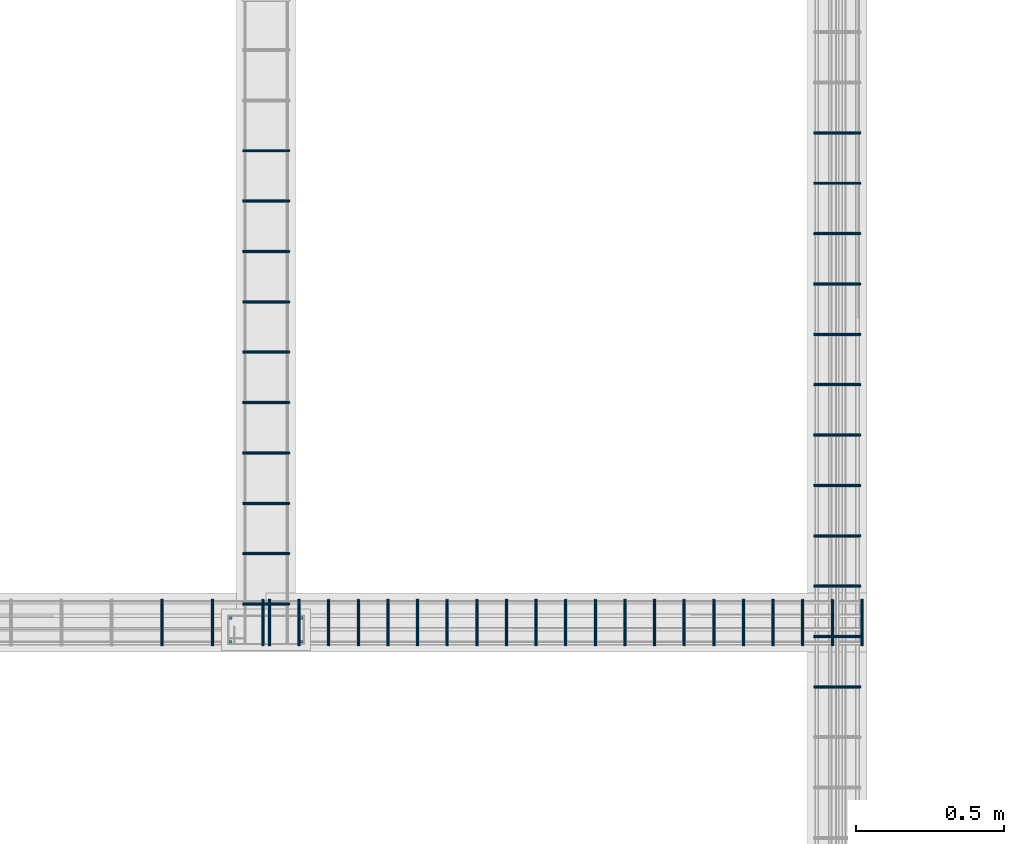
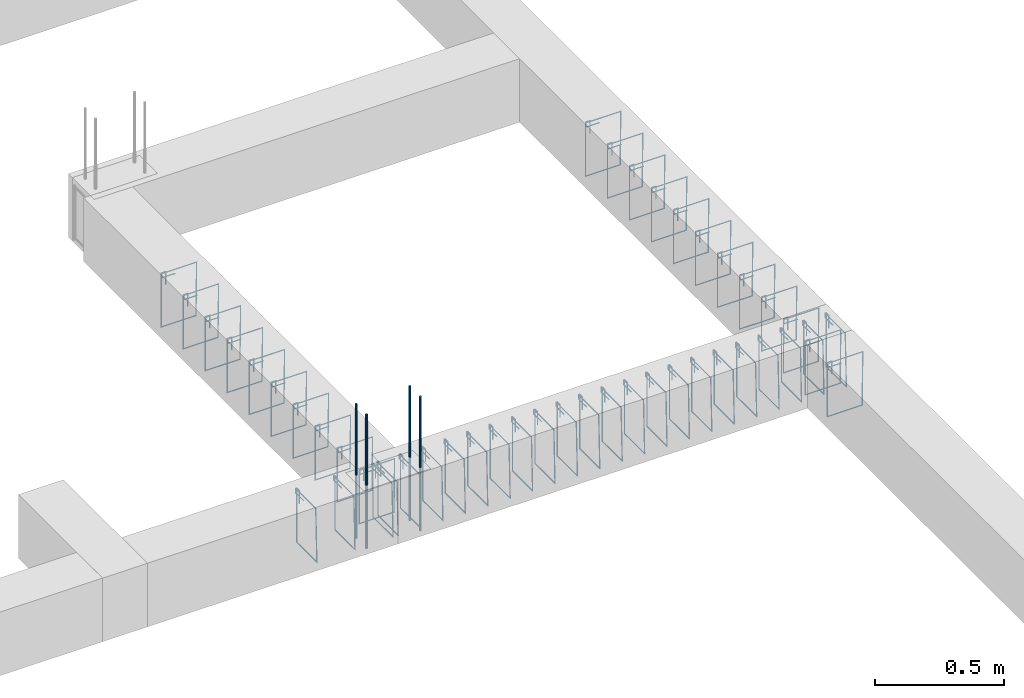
# One storey, part 51 of 150: 50 reinforcing bars.
"""IFC4 building model written with IfcOpenShell, lengths in centimetres."""

from ifc_helpers import new_model, entity, si_unit, derived_unit, frame, origin_with_axes, place, context, project, spatial, source, transform, mapped, element, save


model = new_model("IFC4")

# Units and contexts
model_context = context("Model", 3, precision=1e-05, world=origin_with_axes(), identifier="Body")
ifc_project = project(units=[si_unit("LENGTHUNIT", "METRE", prefix="CENTI"), si_unit("VOLUMEUNIT", "CUBIC_METRE"), si_unit("AREAUNIT", "SQUARE_METRE"), si_unit("POWERUNIT", "WATT"), si_unit("LUMINOUSFLUXUNIT", "LUMEN"), si_unit("ELECTRICCURRENTUNIT", "AMPERE"), si_unit("PRESSUREUNIT", "PASCAL", prefix="KILO"), si_unit("MASSUNIT", "GRAM", prefix="KILO"), si_unit("PLANEANGLEUNIT", "RADIAN"), derived_unit("VOLUMETRICFLOWRATEUNIT", [(si_unit("LENGTHUNIT", "METRE"), 3), (si_unit("TIMEUNIT", "SECOND"), -1)])], contexts=[model_context])

# Site, building, storey
site_placement = place(None, frame((-4000.0, 0.0, 0.0), z_axis=(0.0, 0.0, 1.0), x_axis=(1.0, 0.0, 0.0)))
site = spatial("IfcSite", under=ifc_project, at=site_placement, Name="PADRÃO")
building_placement = place(site_placement, frame((0.0, 0.0, -14.0)))
building = spatial("IfcBuilding", under=site, at=building_placement, Name="CRECHE PRÉ-ESCOLA TIPO 2")
placement = place(building_placement, origin_with_axes())
storey_placement = place(placement, frame((0.0, 0.0, 30.0), z_axis=(0.0, 0.0, 1.0), x_axis=(1.0, 0.0, 0.0)))
storey = spatial("IfcBuildingStorey", under=building, at=storey_placement, Name="VIGA BALDRAME", CompositionType="ELEMENT", Elevation=16.0)

# Reinforcing bars
shared_shape_1 = source(origin_with_axes(), model_context, "Body", "AdvancedSweptSolid", [
    entity("IfcSweptDiskSolid", entity("IfcCompositeCurve", [entity("IfcCompositeCurveSegment", "CONTINUOUS", True, entity("IfcPolyline", [entity("IfcCartesianPoint", [2.0, -6.0, 0.0]), entity("IfcCartesianPoint", [2.0, 0.0, 0.0])])), entity("IfcCompositeCurveSegment", "CONTINUOUS", True, entity("IfcPolyline", [entity("IfcCartesianPoint", [2.0, 0.0, 0.0]), entity("IfcCartesianPoint", [0.0, 0.0, 0.0])])), entity("IfcCompositeCurveSegment", "CONTINUOUS", True, entity("IfcPolyline", [entity("IfcCartesianPoint", [0.0, 0.0, 0.0]), entity("IfcCartesianPoint", [0.0, -25.5, 0.0])])), entity("IfcCompositeCurveSegment", "CONTINUOUS", True, entity("IfcPolyline", [entity("IfcCartesianPoint", [0.0, -25.5, 0.0]), entity("IfcCartesianPoint", [15.5, -25.5, 0.0])])), entity("IfcCompositeCurveSegment", "CONTINUOUS", True, entity("IfcPolyline", [entity("IfcCartesianPoint", [15.5, -25.5, 0.0]), entity("IfcCartesianPoint", [15.5, 0.0, 0.5])])), entity("IfcCompositeCurveSegment", "CONTINUOUS", True, entity("IfcPolyline", [entity("IfcCartesianPoint", [15.5, 0.0, 0.5]), entity("IfcCartesianPoint", [0.0, 0.0, 0.5])])), entity("IfcCompositeCurveSegment", "CONTINUOUS", True, entity("IfcPolyline", [entity("IfcCartesianPoint", [0.0, 0.0, 0.5]), entity("IfcCartesianPoint", [0.0, -2.0, 0.5])])), entity("IfcCompositeCurveSegment", "CONTINUOUS", True, entity("IfcPolyline", [entity("IfcCartesianPoint", [0.0, -2.0, 0.5]), entity("IfcCartesianPoint", [6.0, -2.0, 0.5])]))], False), 0.25),
])
for number, where, z_axis, x_axis, name in (
    (1, (3128.25, 1195.55, -2.25), (0.0, -1.0, 0.0), (1.0, 0.0, 0.0), "V216 - Estribo"),
    (2, (3128.25, 1178.55, -2.25), (0.0, -1.0, 0.0), (1.0, 0.0, 0.0), "V216 - Estribo"),
    (3, (3128.25, 1161.55, -2.25), (0.0, -1.0, 0.0), (1.0, 0.0, 0.0), "V216 - Estribo"),
    (4, (3128.25, 1144.55, -2.25), (0.0, -1.0, 0.0), (1.0, 0.0, 0.0), "V216 - Estribo"),
    (5, (3128.25, 1127.55, -2.25), (0.0, -1.0, 0.0), (1.0, 0.0, 0.0), "V216 - Estribo"),
    (6, (3128.25, 1110.55, -2.25), (0.0, -1.0, 0.0), (1.0, 0.0, 0.0), "V216 - Estribo"),
    (7, (3128.25, 1093.55, -2.25), (0.0, -1.0, 0.0), (1.0, 0.0, 0.0), "V216 - Estribo"),
    (8, (3128.25, 1076.55, -2.25), (0.0, -1.0, 0.0), (1.0, 0.0, 0.0), "V216 - Estribo"),
    (9, (3128.25, 1059.55, -2.25), (0.0, -1.0, 0.0), (1.0, 0.0, 0.0), "V216 - Estribo"),
    (10, (3128.25, 1042.55, -2.25), (0.0, -1.0, 0.0), (1.0, 0.0, 0.0), "V216 - Estribo"),
    (11, (3128.25, 1025.55, -2.25), (0.0, -1.0, 0.0), (1.0, 0.0, 0.0), "V216 - Estribo"),
    (12, (3128.25, 1008.55, -2.25), (0.0, -1.0, 0.0), (1.0, 0.0, 0.0), "V216 - Estribo"),
):
    element("IfcReinforcingBar", number, at=place(storey_placement, frame(where, z_axis=z_axis, x_axis=x_axis)), inside=storey, Name=name, BarLength=0.0, CrossSectionArea=1.9634954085e-05, NominalDiameter=0.5, PredefinedType="MAIN", context=model_context, shape_type="MappedRepresentation", body=[
        mapped(shared_shape_1, transform((0.0, 0.0, 0.0), scale=1.0)),
    ])
shared_shape_2 = source(origin_with_axes(), model_context, "Body", "AdvancedSweptSolid", [
    entity("IfcSweptDiskSolid", entity("IfcCompositeCurve", [entity("IfcCompositeCurveSegment", "CONTINUOUS", True, entity("IfcPolyline", [entity("IfcCartesianPoint", [2.0, -6.0, 0.0]), entity("IfcCartesianPoint", [2.0, 0.0, 0.0])])), entity("IfcCompositeCurveSegment", "CONTINUOUS", True, entity("IfcPolyline", [entity("IfcCartesianPoint", [2.0, 0.0, 0.0]), entity("IfcCartesianPoint", [0.0, 0.0, 0.0])])), entity("IfcCompositeCurveSegment", "CONTINUOUS", True, entity("IfcPolyline", [entity("IfcCartesianPoint", [0.0, 0.0, 0.0]), entity("IfcCartesianPoint", [0.0, -25.5, 0.0])])), entity("IfcCompositeCurveSegment", "CONTINUOUS", True, entity("IfcPolyline", [entity("IfcCartesianPoint", [0.0, -25.5, 0.0]), entity("IfcCartesianPoint", [15.5, -25.5, 0.0])])), entity("IfcCompositeCurveSegment", "CONTINUOUS", True, entity("IfcPolyline", [entity("IfcCartesianPoint", [15.5, -25.5, 0.0]), entity("IfcCartesianPoint", [15.5, 0.0, 0.5])])), entity("IfcCompositeCurveSegment", "CONTINUOUS", True, entity("IfcPolyline", [entity("IfcCartesianPoint", [15.5, 0.0, 0.5]), entity("IfcCartesianPoint", [0.0, 0.0, 0.5])])), entity("IfcCompositeCurveSegment", "CONTINUOUS", True, entity("IfcPolyline", [entity("IfcCartesianPoint", [0.0, 0.0, 0.5]), entity("IfcCartesianPoint", [0.0, -2.0, 0.5])])), entity("IfcCompositeCurveSegment", "CONTINUOUS", True, entity("IfcPolyline", [entity("IfcCartesianPoint", [0.0, -2.0, 0.5]), entity("IfcCartesianPoint", [6.0, -2.0, 0.5])]))], False), 0.25),
])
for number, where, z_axis, x_axis, name in (
    (13, (2935.49, 1036.52, -2.25), (0.0, -1.0, 0.0), (1.0, 0.0, 0.0), "V210 - Estribo"),
    (14, (2935.49, 1189.52, -2.25), (0.0, -1.0, 0.0), (1.0, 0.0, 0.0), "V210 - Estribo"),
    (15, (2935.49, 1172.52, -2.25), (0.0, -1.0, 0.0), (1.0, 0.0, 0.0), "V210 - Estribo"),
    (16, (2935.49, 1155.52, -2.25), (0.0, -1.0, 0.0), (1.0, 0.0, 0.0), "V210 - Estribo"),
    (17, (2935.49, 1138.52, -2.25), (0.0, -1.0, 0.0), (1.0, 0.0, 0.0), "V210 - Estribo"),
    (18, (2935.49, 1104.52, -2.25), (0.0, -1.0, 0.0), (1.0, 0.0, 0.0), "V210 - Estribo"),
    (19, (2935.49, 1087.52, -2.25), (0.0, -1.0, 0.0), (1.0, 0.0, 0.0), "V210 - Estribo"),
    (20, (2935.49, 1070.52, -2.25), (0.0, -1.0, 0.0), (1.0, 0.0, 0.0), "V210 - Estribo"),
    (21, (2935.49, 1121.52, -2.25), (0.0, -1.0, 0.0), (1.0, 0.0, 0.0), "V210 - Estribo"),
    (22, (2935.49, 1053.52, -2.25), (0.0, -1.0, 0.0), (1.0, 0.0, 0.0), "V210 - Estribo"),
):
    element("IfcReinforcingBar", number, at=place(storey_placement, frame(where, z_axis=z_axis, x_axis=x_axis)), inside=storey, Name=name, BarLength=0.0, CrossSectionArea=1.9634954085e-05, NominalDiameter=0.5, PredefinedType="MAIN", context=model_context, shape_type="MappedRepresentation", body=[
        mapped(shared_shape_2, transform((0.0, 0.0, 0.0), scale=1.0)),
    ])
shared_shape_3 = source(origin_with_axes(), model_context, "Body", "AdvancedSweptSolid", [
    entity("IfcSweptDiskSolid", entity("IfcCompositeCurve", [entity("IfcCompositeCurveSegment", "CONTINUOUS", True, entity("IfcPolyline", [entity("IfcCartesianPoint", [2.0, -6.0, 0.0]), entity("IfcCartesianPoint", [2.0, 0.0, 0.0])])), entity("IfcCompositeCurveSegment", "CONTINUOUS", True, entity("IfcPolyline", [entity("IfcCartesianPoint", [2.0, 0.0, 0.0]), entity("IfcCartesianPoint", [0.0, 0.0, 0.0])])), entity("IfcCompositeCurveSegment", "CONTINUOUS", True, entity("IfcPolyline", [entity("IfcCartesianPoint", [0.0, 0.0, 0.0]), entity("IfcCartesianPoint", [0.0, -25.5, 0.0])])), entity("IfcCompositeCurveSegment", "CONTINUOUS", True, entity("IfcPolyline", [entity("IfcCartesianPoint", [0.0, -25.5, 0.0]), entity("IfcCartesianPoint", [15.5, -25.5, 0.0])])), entity("IfcCompositeCurveSegment", "CONTINUOUS", True, entity("IfcPolyline", [entity("IfcCartesianPoint", [15.5, -25.5, 0.0]), entity("IfcCartesianPoint", [15.5, 0.0, 0.5])])), entity("IfcCompositeCurveSegment", "CONTINUOUS", True, entity("IfcPolyline", [entity("IfcCartesianPoint", [15.5, 0.0, 0.5]), entity("IfcCartesianPoint", [0.0, 0.0, 0.5])])), entity("IfcCompositeCurveSegment", "CONTINUOUS", True, entity("IfcPolyline", [entity("IfcCartesianPoint", [0.0, 0.0, 0.5]), entity("IfcCartesianPoint", [0.0, -2.0, 0.5])])), entity("IfcCompositeCurveSegment", "CONTINUOUS", True, entity("IfcPolyline", [entity("IfcCartesianPoint", [0.0, -2.0, 0.5]), entity("IfcCartesianPoint", [6.0, -2.0, 0.5])]))], False), 0.25),
])
for number, where, z_axis, x_axis, name in (
    (23, (2942.37, 1037.76, -2.25), (-1.0, 0.0, 0.0), (0.0, -1.0, 0.0), "V143 - Estribo"),
    (24, (2925.37, 1037.76, -2.25), (-1.0, 0.0, 0.0), (0.0, -1.0, 0.0), "V143 - Estribo"),
    (25, (2908.37, 1037.76, -2.25), (-1.0, 0.0, 0.0), (0.0, -1.0, 0.0), "V143 - Estribo"),
):
    element("IfcReinforcingBar", number, at=place(storey_placement, frame(where, z_axis=z_axis, x_axis=x_axis)), inside=storey, Name=name, BarLength=0.0, CrossSectionArea=1.9634954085e-05, NominalDiameter=0.5, PredefinedType="MAIN", context=model_context, shape_type="MappedRepresentation", body=[
        mapped(shared_shape_3, transform((0.0, 0.0, 0.0), scale=1.0)),
    ])
shared_shape_4 = source(origin_with_axes(), model_context, "Body", "AdvancedSweptSolid", [
    entity("IfcSweptDiskSolid", entity("IfcCompositeCurve", [entity("IfcCompositeCurveSegment", "CONTINUOUS", True, entity("IfcPolyline", [entity("IfcCartesianPoint", [2.0, -6.0, 0.0]), entity("IfcCartesianPoint", [2.0, 0.0, 0.0])])), entity("IfcCompositeCurveSegment", "CONTINUOUS", True, entity("IfcPolyline", [entity("IfcCartesianPoint", [2.0, 0.0, 0.0]), entity("IfcCartesianPoint", [0.0, 0.0, 0.0])])), entity("IfcCompositeCurveSegment", "CONTINUOUS", True, entity("IfcPolyline", [entity("IfcCartesianPoint", [0.0, 0.0, 0.0]), entity("IfcCartesianPoint", [0.0, -25.5, 0.0])])), entity("IfcCompositeCurveSegment", "CONTINUOUS", True, entity("IfcPolyline", [entity("IfcCartesianPoint", [0.0, -25.5, 0.0]), entity("IfcCartesianPoint", [15.5, -25.5, 0.0])])), entity("IfcCompositeCurveSegment", "CONTINUOUS", True, entity("IfcPolyline", [entity("IfcCartesianPoint", [15.5, -25.5, 0.0]), entity("IfcCartesianPoint", [15.5, 0.0, 0.5])])), entity("IfcCompositeCurveSegment", "CONTINUOUS", True, entity("IfcPolyline", [entity("IfcCartesianPoint", [15.5, 0.0, 0.5]), entity("IfcCartesianPoint", [0.0, 0.0, 0.5])])), entity("IfcCompositeCurveSegment", "CONTINUOUS", True, entity("IfcPolyline", [entity("IfcCartesianPoint", [0.0, 0.0, 0.5]), entity("IfcCartesianPoint", [0.0, -2.0, 0.5])])), entity("IfcCompositeCurveSegment", "CONTINUOUS", True, entity("IfcPolyline", [entity("IfcCartesianPoint", [0.0, -2.0, 0.5]), entity("IfcCartesianPoint", [6.0, -2.0, 0.5])]))], False), 0.25),
])
for number, where, z_axis, x_axis, name in (
    (26, (3034.62, 1037.76, -2.25), (-1.0, 0.0, 0.0), (0.0, -1.0, 0.0), "V143 - Estribo"),
    (27, (3044.62, 1037.76, -2.25), (-1.0, 0.0, 0.0), (0.0, -1.0, 0.0), "V143 - Estribo"),
    (28, (3054.62, 1037.76, -2.25), (-1.0, 0.0, 0.0), (0.0, -1.0, 0.0), "V143 - Estribo"),
    (29, (3064.62, 1037.76, -2.25), (-1.0, 0.0, 0.0), (0.0, -1.0, 0.0), "V143 - Estribo"),
    (30, (3074.62, 1037.76, -2.25), (-1.0, 0.0, 0.0), (0.0, -1.0, 0.0), "V143 - Estribo"),
    (31, (3084.62, 1037.76, -2.25), (-1.0, 0.0, 0.0), (0.0, -1.0, 0.0), "V143 - Estribo"),
    (32, (3104.62, 1037.76, -2.25), (-1.0, 0.0, 0.0), (0.0, -1.0, 0.0), "V143 - Estribo"),
    (33, (3114.62, 1037.76, -2.25), (-1.0, 0.0, 0.0), (0.0, -1.0, 0.0), "V143 - Estribo"),
    (34, (3124.62, 1037.76, -2.25), (-1.0, 0.0, 0.0), (0.0, -1.0, 0.0), "V143 - Estribo"),
    (35, (3134.62, 1037.76, -2.25), (-1.0, 0.0, 0.0), (0.0, -1.0, 0.0), "V143 - Estribo"),
    (36, (3144.62, 1037.76, -2.25), (-1.0, 0.0, 0.0), (0.0, -1.0, 0.0), "V143 - Estribo"),
    (37, (2964.62, 1037.76, -2.25), (-1.0, 0.0, 0.0), (0.0, -1.0, 0.0), "V143 - Estribo"),
    (38, (2954.62, 1037.76, -2.25), (-1.0, 0.0, 0.0), (0.0, -1.0, 0.0), "V143 - Estribo"),
    (39, (2944.62, 1037.76, -2.25), (-1.0, 0.0, 0.0), (0.0, -1.0, 0.0), "V143 - Estribo"),
    (40, (3014.62, 1037.76, -2.25), (-1.0, 0.0, 0.0), (0.0, -1.0, 0.0), "V143 - Estribo"),
    (41, (2984.62, 1037.76, -2.25), (-1.0, 0.0, 0.0), (0.0, -1.0, 0.0), "V143 - Estribo"),
    (42, (2974.62, 1037.76, -2.25), (-1.0, 0.0, 0.0), (0.0, -1.0, 0.0), "V143 - Estribo"),
    (43, (3094.62, 1037.76, -2.25), (-1.0, 0.0, 0.0), (0.0, -1.0, 0.0), "V143 - Estribo"),
    (44, (2994.62, 1037.76, -2.25), (-1.0, 0.0, 0.0), (0.0, -1.0, 0.0), "V143 - Estribo"),
    (45, (3004.62, 1037.76, -2.25), (-1.0, 0.0, 0.0), (0.0, -1.0, 0.0), "V143 - Estribo"),
    (46, (3024.62, 1037.76, -2.25), (-1.0, 0.0, 0.0), (0.0, -1.0, 0.0), "V143 - Estribo"),
):
    element("IfcReinforcingBar", number, at=place(storey_placement, frame(where, z_axis=z_axis, x_axis=x_axis)), inside=storey, Name=name, BarLength=0.0, CrossSectionArea=1.9634954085e-05, NominalDiameter=0.5, PredefinedType="MAIN", context=model_context, shape_type="MappedRepresentation", body=[
        mapped(shared_shape_4, transform((0.0, 0.0, 0.0), scale=1.0)),
    ])
for number, where, z_axis, x_axis, name in (
    (47, (2955.24, 1031.52, 33.3573001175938), (0.0, 0.0, 1.0), (1.0, 0.0, 0.0), "P123 - Longitudinal"),
    (48, (2955.24, 1023.52, 33.3573001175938), (0.0, 0.0, 1.0), (1.0, 0.0, 0.0), "P123 - Longitudinal"),
    (49, (2931.24, 1023.52, 33.3573001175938), (0.0, 0.0, 1.0), (1.0, 0.0, 0.0), "P123 - Longitudinal"),
    (50, (2931.24, 1031.52, 33.3573001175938), (0.0, 0.0, 1.0), (1.0, 0.0, 0.0), "P123 - Longitudinal"),
):
    element("IfcReinforcingBar", number, at=place(storey_placement, frame(where, z_axis=z_axis, x_axis=x_axis)), inside=storey, Name=name, BarLength=0.0, CrossSectionArea=7.853981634e-05, NominalDiameter=1.0, PredefinedType="MAIN", context=model_context, shape_type="AdvancedSweptSolid", body=[
        entity("IfcSweptDiskSolid", entity("IfcCompositeCurve", [entity("IfcCompositeCurveSegment", "CONTINUOUS", True, entity("IfcPolyline", [entity("IfcCartesianPoint", [0.0, 0.0, -63.3573001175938]), entity("IfcCartesianPoint", [0.0, 0.0, 0.0])]))], False), 0.5),
    ])

save(model, "model.ifc")
